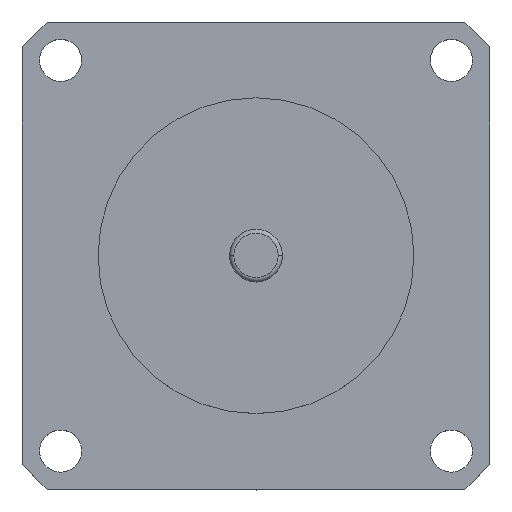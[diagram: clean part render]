
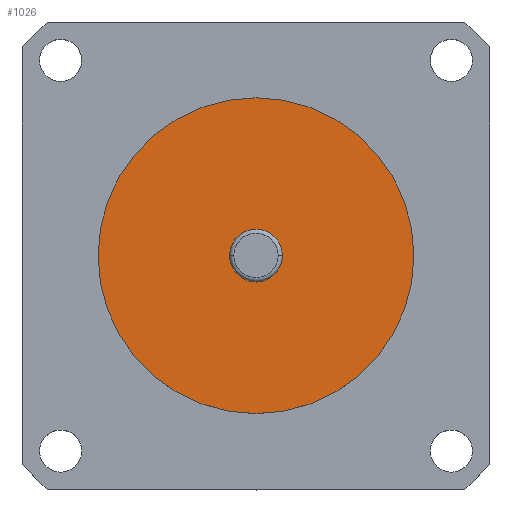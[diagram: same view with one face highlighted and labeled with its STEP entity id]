
A CAD part, top view. The second image highlights one B-rep face of the part: STEP entity #1026.
In plain terms, the highlighted planar face has unit normal (0, 0, 1).
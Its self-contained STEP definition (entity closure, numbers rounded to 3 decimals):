
#12 = FACE_BOUND ( 'NONE', #23, .T. ) ;
#23 = EDGE_LOOP ( 'NONE', ( #226, #668 ) ) ;
#58 = VERTEX_POINT ( 'NONE', #519 ) ;
#74 = ORIENTED_EDGE ( 'NONE', *, *, #907, .T. ) ;
#92 = CARTESIAN_POINT ( 'NONE',  ( 0., 0., 1.5 ) ) ;
#94 = CIRCLE ( 'NONE', #999, 3.175 ) ;
#115 = EDGE_CURVE ( 'NONE', #644, #392, #94, .T. ) ;
#158 = AXIS2_PLACEMENT_3D ( 'NONE', #365, #1056, #470 ) ;
#193 = EDGE_LOOP ( 'NONE', ( #1258, #74 ) ) ;
#226 = ORIENTED_EDGE ( 'NONE', *, *, #394, .T. ) ;
#279 = DIRECTION ( 'NONE',  ( 1., 0., 0. ) ) ;
#320 = DIRECTION ( 'NONE',  ( 0., 0., -1. ) ) ;
#365 = CARTESIAN_POINT ( 'NONE',  ( 0., 0., 1.5 ) ) ;
#392 = VERTEX_POINT ( 'NONE', #426 ) ;
#394 = EDGE_CURVE ( 'NONE', #392, #644, #1231, .T. ) ;
#400 = AXIS2_PLACEMENT_3D ( 'NONE', #1038, #451, #1138 ) ;
#426 = CARTESIAN_POINT ( 'NONE',  ( -3.175, 0., 1.5 ) ) ;
#451 = DIRECTION ( 'NONE',  ( 0., 0., 1. ) ) ;
#470 = DIRECTION ( 'NONE',  ( 1., 0., 0. ) ) ;
#487 = CARTESIAN_POINT ( 'NONE',  ( -19.05, 0., 1.5 ) ) ;
#519 = CARTESIAN_POINT ( 'NONE',  ( 19.05, 0., 1.5 ) ) ;
#546 = DIRECTION ( 'NONE',  ( 0., 0., 1. ) ) ;
#566 = CARTESIAN_POINT ( 'NONE',  ( 3.175, 0., 1.5 ) ) ;
#602 = CIRCLE ( 'NONE', #720, 19.05 ) ;
#605 = CIRCLE ( 'NONE', #400, 19.05 ) ;
#644 = VERTEX_POINT ( 'NONE', #566 ) ;
#668 = ORIENTED_EDGE ( 'NONE', *, *, #115, .T. ) ;
#720 = AXIS2_PLACEMENT_3D ( 'NONE', #1134, #546, #1227 ) ;
#841 = EDGE_CURVE ( 'NONE', #1077, #58, #605, .T. ) ;
#854 = PLANE ( 'NONE',  #1133 ) ;
#897 = CARTESIAN_POINT ( 'NONE',  ( 0., 0., 1.5 ) ) ;
#907 = EDGE_CURVE ( 'NONE', #58, #1077, #602, .T. ) ;
#999 = AXIS2_PLACEMENT_3D ( 'NONE', #897, #320, #1008 ) ;
#1008 = DIRECTION ( 'NONE',  ( 1., 0., 0. ) ) ;
#1014 = FACE_OUTER_BOUND ( 'NONE', #193, .T. ) ;
#1026 = ADVANCED_FACE ( 'NONE', ( #1014, #12 ), #854, .T. ) ;
#1038 = CARTESIAN_POINT ( 'NONE',  ( 0., 0., 1.5 ) ) ;
#1056 = DIRECTION ( 'NONE',  ( 0., 0., -1. ) ) ;
#1077 = VERTEX_POINT ( 'NONE', #487 ) ;
#1133 = AXIS2_PLACEMENT_3D ( 'NONE', #92, #1257, #279 ) ;
#1134 = CARTESIAN_POINT ( 'NONE',  ( 0., 0., 1.5 ) ) ;
#1138 = DIRECTION ( 'NONE',  ( 1., 0., 0. ) ) ;
#1227 = DIRECTION ( 'NONE',  ( 1., 0., 0. ) ) ;
#1231 = CIRCLE ( 'NONE', #158, 3.175 ) ;
#1257 = DIRECTION ( 'NONE',  ( 0., 0., 1. ) ) ;
#1258 = ORIENTED_EDGE ( 'NONE', *, *, #841, .T. ) ;
